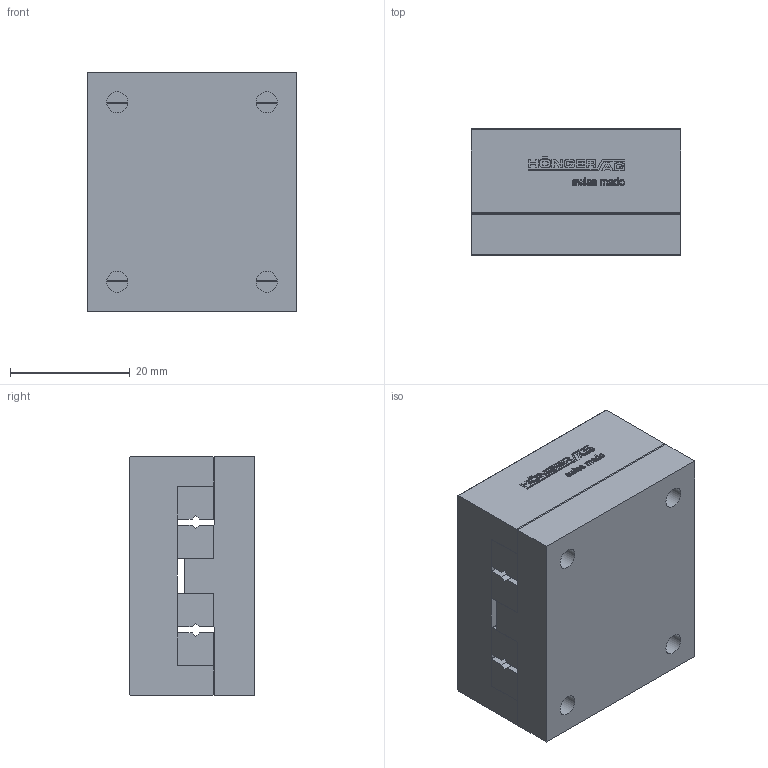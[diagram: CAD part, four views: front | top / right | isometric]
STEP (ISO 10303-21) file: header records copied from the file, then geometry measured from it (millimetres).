
FILE_DESCRIPTION(/* description */ ('STEP AP214'),/* implementation_level */ '2;1');
FILE_NAME(/* name */ 'NK 2-35-B(0)',/* time_stamp */ '2025-04-22T17:47:50+02:00',/* author */ ('License CC BY-ND 4.0'),/* organization */ ('CADENAS'),/* preprocessor_version */ 'ST-DEVELOPER v19.3',/* originating_system */ 'PARTsolutions',/* authorisation */ ' ');
FILE_SCHEMA (('AUTOMOTIVE_DESIGN {1 0 10303 214 3 1 1}'));
Length unit declared in the file: millimetre
Products named in the file (3): NK 2-35-B(0); NK 2-35-B_1; NK 2-35-B_2
Assembly tree (2 placements, depth 2):
  NK 2-35-B(0)
    NK 2-35-B_1
    NK 2-35-B_2
Bounding box: 35 x 21 x 40 mm (x, y, z)
Volume: 27880.9 mm3; surface area: 11742.4 mm2
Topology: 2 solids, 2 shells, 567 faces, 1584 edges, 1052 vertices
Faces by surface type: cylinder 302, plane 261, cone 4
Full cylindrical faces by diameter (mm): 2.459 x2, 3.5 x4, 6 x4
Entity records: 18439 total; most frequent: DIRECTION 3318, CARTESIAN_POINT 3192, ORIENTED_EDGE 3140, EDGE_CURVE 1570, AXIS2_PLACEMENT_3D 1178, VERTEX_POINT 1052, LINE 962, VECTOR 962
